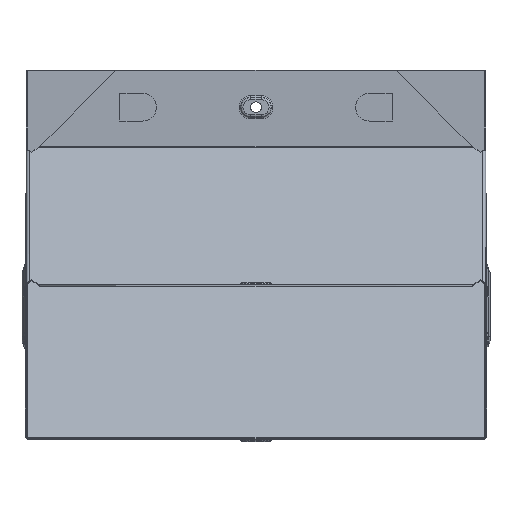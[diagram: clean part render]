
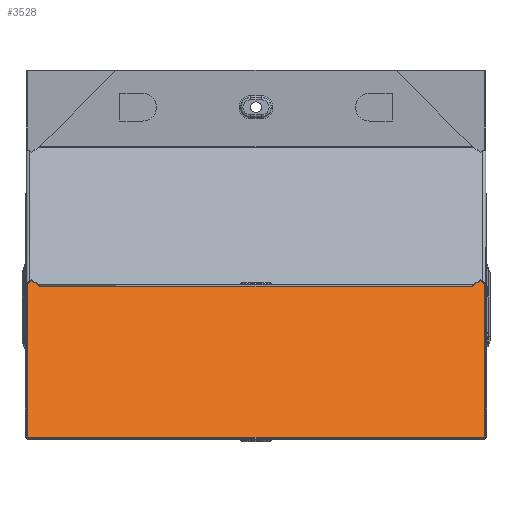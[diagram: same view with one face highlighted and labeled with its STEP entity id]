
A CAD part, front view. The second image highlights one B-rep face of the part: STEP entity #3528.
In plain terms, the highlighted planar face has unit normal (0, -0.707, 0.707).
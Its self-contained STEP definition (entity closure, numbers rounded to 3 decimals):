
#68 = EDGE_CURVE ( 'NONE', #2965, #6769, #6179, .T. ) ;
#493 = CARTESIAN_POINT ( 'NONE',  ( 149., 169.707, -21.73 ) ) ;
#521 = PLANE ( 'NONE',  #2472 ) ;
#552 = ORIENTED_EDGE ( 'NONE', *, *, #5322, .T. ) ;
#599 = CARTESIAN_POINT ( 'NONE',  ( -149., 169.707, -21.73 ) ) ;
#899 = LINE ( 'NONE', #7943, #6398 ) ;
#1128 = VERTEX_POINT ( 'NONE', #7866 ) ;
#1167 = CARTESIAN_POINT ( 'NONE',  ( 149., 21.73, -169.707 ) ) ;
#1445 = FACE_OUTER_BOUND ( 'NONE', #7490, .T. ) ;
#1881 = CARTESIAN_POINT ( 'NONE',  ( 149., 169.707, -21.73 ) ) ;
#1925 = ORIENTED_EDGE ( 'NONE', *, *, #2151, .F. ) ;
#1960 = CARTESIAN_POINT ( 'NONE',  ( 149., 95.718, -95.718 ) ) ;
#2151 = EDGE_CURVE ( 'NONE', #2965, #6265, #6037, .T. ) ;
#2472 = AXIS2_PLACEMENT_3D ( 'NONE', #1960, #5352, #8756 ) ;
#2879 = VECTOR ( 'NONE', #7258, 1000. ) ;
#2965 = VERTEX_POINT ( 'NONE', #493 ) ;
#3528 = ADVANCED_FACE ( 'NONE', ( #1445 ), #521, .F. ) ;
#3953 = DIRECTION ( 'NONE',  ( 0., -0.707, -0.707 ) ) ;
#4084 = ORIENTED_EDGE ( 'NONE', *, *, #6246, .F. ) ;
#5244 = DIRECTION ( 'NONE',  ( -1., 0., 0. ) ) ;
#5322 = EDGE_CURVE ( 'NONE', #6769, #1128, #8741, .T. ) ;
#5352 = DIRECTION ( 'NONE',  ( 0., 0.707, -0.707 ) ) ;
#5866 = CARTESIAN_POINT ( 'NONE',  ( -149., 95.718, -95.718 ) ) ;
#6037 = LINE ( 'NONE', #6640, #7635 ) ;
#6179 = LINE ( 'NONE', #1881, #8108 ) ;
#6246 = EDGE_CURVE ( 'NONE', #6265, #1128, #899, .T. ) ;
#6265 = VERTEX_POINT ( 'NONE', #1167 ) ;
#6398 = VECTOR ( 'NONE', #7231, 1000. ) ;
#6640 = CARTESIAN_POINT ( 'NONE',  ( 149., 95.718, -95.718 ) ) ;
#6769 = VERTEX_POINT ( 'NONE', #599 ) ;
#7231 = DIRECTION ( 'NONE',  ( -1., 0., 0. ) ) ;
#7258 = DIRECTION ( 'NONE',  ( 0., -0.707, -0.707 ) ) ;
#7490 = EDGE_LOOP ( 'NONE', ( #552, #4084, #1925, #8795 ) ) ;
#7635 = VECTOR ( 'NONE', #3953, 1000. ) ;
#7866 = CARTESIAN_POINT ( 'NONE',  ( -149., 21.73, -169.707 ) ) ;
#7943 = CARTESIAN_POINT ( 'NONE',  ( 149., 21.73, -169.707 ) ) ;
#8108 = VECTOR ( 'NONE', #5244, 1000. ) ;
#8741 = LINE ( 'NONE', #5866, #2879 ) ;
#8756 = DIRECTION ( 'NONE',  ( 0., 0.707, 0.707 ) ) ;
#8795 = ORIENTED_EDGE ( 'NONE', *, *, #68, .T. ) ;
